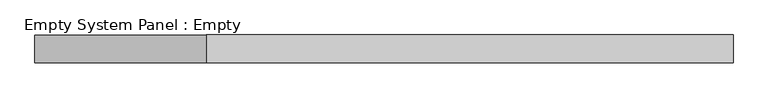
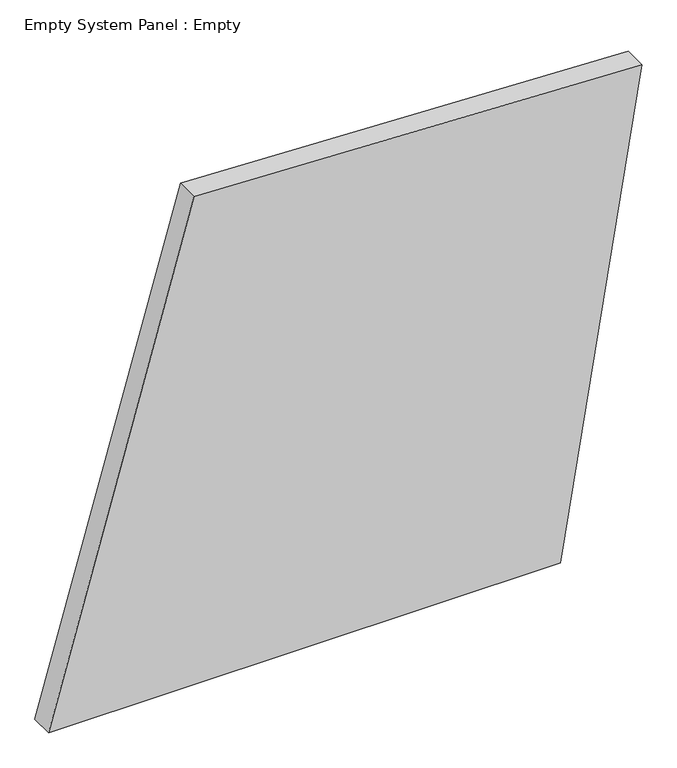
"""IFC4 building model written with IfcOpenShell, lengths in millimetres: plate geometry, Empty System Panel : Empty."""

from ifc_helpers import new_model, si_unit, frame, origin, place, context, project, spatial, polyline, outline, extrude, source, transform, mapped, element, save


def empty_system_panel_empty_f5dcf726(model_context):
    return source(origin(), model_context, "Body", "SweptSolid", [
        extrude(outline(polyline([(0.0, -1278.4173572), (0.0, 928.0657225), (2148.1586021, 1278.4173572), (2221.5418033, -651.3826159), (0.0, -1278.4173572)])), frame((0.0, -50.8, 0.0), z_axis=(0.0, 1.0, 0.0), x_axis=(0.0, 0.0, 1.0)), (0.0, 0.0, 1.0), 101.6),
    ])


if __name__ == "__main__":
    model = new_model("IFC4")
    model_context = context("Model", 3, world=origin())
    ifc_project = project(units=[si_unit("LENGTHUNIT", "METRE", prefix="MILLI")], contexts=[model_context])
    site = spatial("IfcSite", under=ifc_project)
    building = spatial("IfcBuilding", under=site)
    placement = place(None, origin())
    empty_system_panel_empty_shape = empty_system_panel_empty_f5dcf726(model_context)
    element("IfcPlate", 1, ObjectType="Empty System Panel : Empty", at=placement, inside=building, context=model_context, shape_type="MappedRepresentation", body=[
        mapped(empty_system_panel_empty_shape, transform((0.0, 0.0, 0.0), x_axis=(1.0, 0.0, 0.0), y_axis=(0.0, 1.0, 0.0), z_axis=(0.0, 0.0, 1.0))),
    ])
    save(model, "model.ifc")
